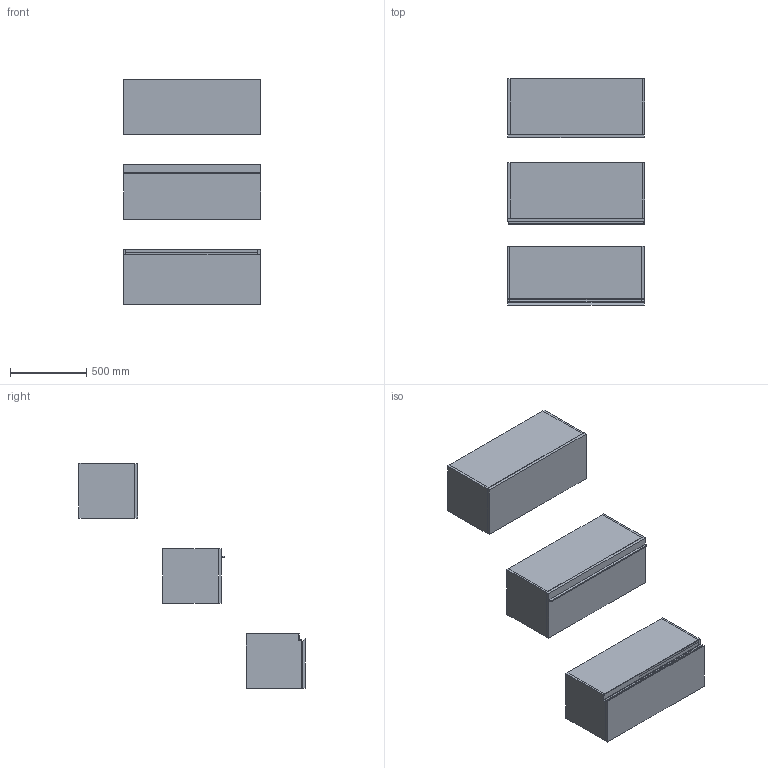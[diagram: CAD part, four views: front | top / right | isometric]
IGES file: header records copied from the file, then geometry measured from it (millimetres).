
Start section: Data from Parasolid IGES Translator 19.0.9, Copyright(c) 2006 Siemens PL M Software. All Rights Reserved.
Global section: file name: noorth-SI-H 36 D 38,8 W 90_8335.igs; native system: By Siemens PLM Incorporated; preprocessor: XPlus GENERIC/IGES 19.0.9; author: Noname; organization: Noname; date: 20200530.133045; units: metre
Bounding box: 901.02 x 1485.1 x 1480 mm (x, y, z)
Volume: 63070730 mm3; surface area: 9611133.5 mm2
Topology: 20 solids, 20 shells, 178 faces, 382 edges, 234 vertices
Faces by surface type: plane 134, extrusion 16, bspline 16, cylinder 12
